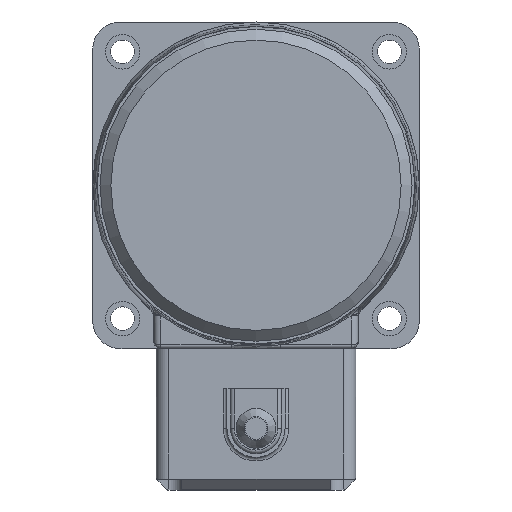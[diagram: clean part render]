
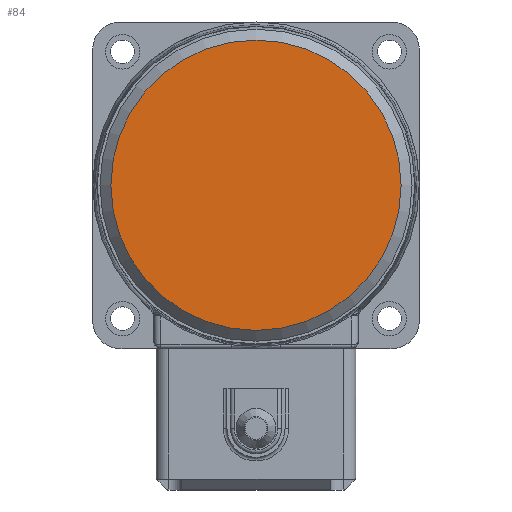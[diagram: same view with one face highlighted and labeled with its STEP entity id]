
A CAD part, left-side view. The second image highlights one B-rep face of the part: STEP entity #84.
In plain terms, the highlighted planar face has unit normal (-1, 0, 0).
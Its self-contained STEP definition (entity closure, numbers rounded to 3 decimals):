
#68=CARTESIAN_POINT('',(0.,20.,0.0));
#69=DIRECTION('',(-1.0,0.0,0.0));
#70=DIRECTION('',(0.0,0.0,1.0));
#71=AXIS2_PLACEMENT_3D('',#68,#69,#70);
#72=PLANE('',#71);
#73=CARTESIAN_POINT('',(0.,40.,0.0));
#74=VERTEX_POINT('',#73);
#75=CARTESIAN_POINT('',(0.,0.,0.0));
#76=DIRECTION('',(1.0,0.0,0.0));
#77=DIRECTION('',(0.0,1.0,0.0));
#78=AXIS2_PLACEMENT_3D('',#75,#76,#77);
#79=CIRCLE('',#78,40.);
#80=EDGE_CURVE('',#74,#74,#79,.T.);
#81=ORIENTED_EDGE('',*,*,#80,.F.);
#82=EDGE_LOOP('',(#81));
#83=FACE_OUTER_BOUND('',#82,.T.);
#84=ADVANCED_FACE('',(#83),#72,.T.);
